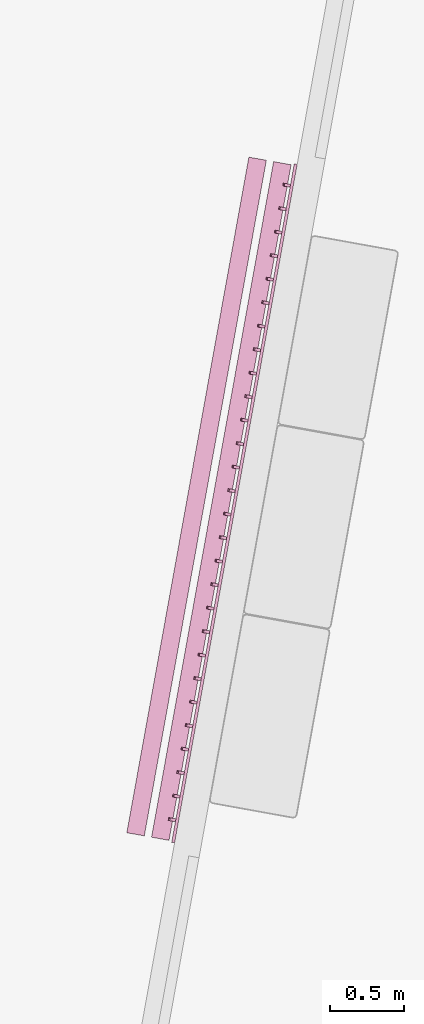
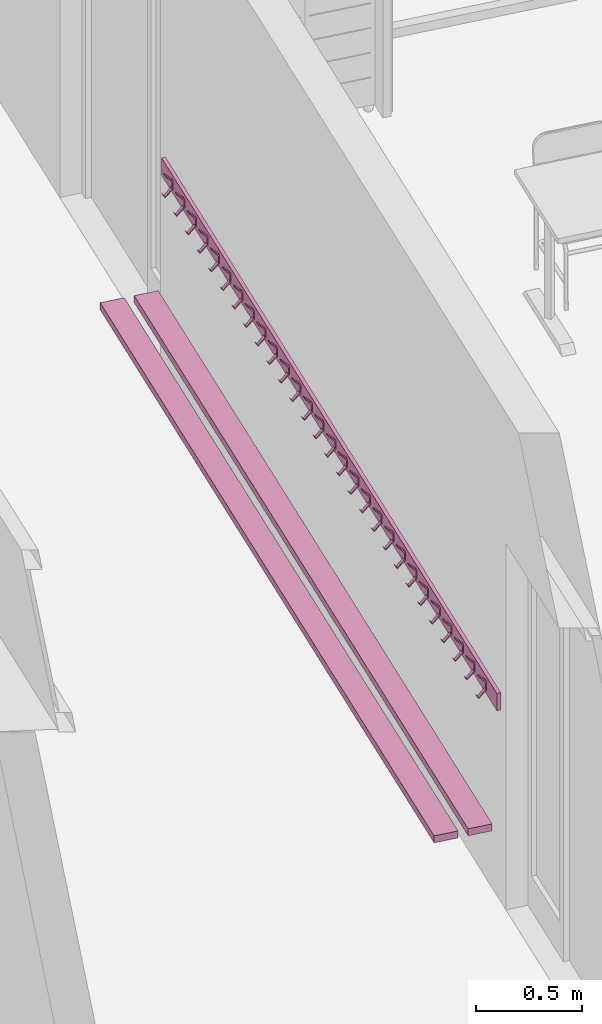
# One storey, part 4 of 79: 2 furnishings.
"""IFC2X3 building model written with IfcOpenShell, lengths in metres."""

from ifc_helpers import new_model, entity, si_unit, converted_unit, derived_unit, money_unit, direction, frame, origin_with_axes, place, context, subcontext, project, spatial, faceted_brep, source, transform, mapped, material, type_object, element, save


model = new_model("IFC2X3")

# Units and contexts
model_context = context("Model", 3, precision=1e-05, world=origin_with_axes(), true_north=direction((0.0, 1.0)))
body_context = subcontext(model_context, "Body", "Model", "MODEL_VIEW")
ifc_project = project(units=[si_unit("LENGTHUNIT", "METRE"), si_unit("AREAUNIT", "SQUARE_METRE"), si_unit("VOLUMEUNIT", "CUBIC_METRE"), converted_unit("PLANEANGLEUNIT", "DEGREE", entity("IfcPlaneAngleMeasure", 0.0174532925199), si_unit("PLANEANGLEUNIT", "RADIAN"), dimensions=[0, 0, 0, 0, 0, 0, 0]), money_unit("CHF"), converted_unit("TIMEUNIT", "Year", entity("IfcTimeMeasure", 31556926.0), si_unit("TIMEUNIT", "SECOND"), dimensions=[0, 0, 1, 0, 0, 0, 0]), si_unit("MASSUNIT", "GRAM", prefix="KILO"), si_unit("THERMODYNAMICTEMPERATUREUNIT", "DEGREE_CELSIUS"), si_unit("LUMINOUSINTENSITYUNIT", "LUMEN"), si_unit("ENERGYUNIT", "JOULE", prefix="MEGA"), derived_unit("THERMALCONDUCTANCEUNIT", [(si_unit("POWERUNIT", "WATT"), 1), (si_unit("LENGTHUNIT", "METRE"), -1), (si_unit("THERMODYNAMICTEMPERATUREUNIT", "KELVIN"), -1)]), derived_unit("SPECIFICHEATCAPACITYUNIT", [(si_unit("ENERGYUNIT", "JOULE"), 1), (si_unit("MASSUNIT", "GRAM", prefix="KILO"), -1), (si_unit("THERMODYNAMICTEMPERATUREUNIT", "KELVIN"), -1)]), derived_unit("MASSDENSITYUNIT", [(si_unit("MASSUNIT", "GRAM", prefix="KILO"), 1), (si_unit("VOLUMEUNIT", "CUBIC_METRE"), -1)])], contexts=[model_context])

# Site, building, storey
site_placement = place(None, frame((0.0, 0.0, 0.0), z_axis=(0.0, 0.0, 1.0), x_axis=(-0.177771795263, -0.984071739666, 0.0)))
site = spatial("IfcSite", under=ifc_project, at=site_placement, Name="Site", CompositionType="ELEMENT")
building_placement = place(site_placement, origin_with_axes())
building = spatial("IfcBuilding", under=site, at=building_placement, Name="Bâtiment", CompositionType="ELEMENT")
storey_placement = place(building_placement, origin_with_axes())
storey = spatial("IfcBuildingStorey", under=building, at=storey_placement, Name="RDC", CompositionType="ELEMENT", Elevation=0.0)

# Furnishings
ifc_material_1 = material(Name="Matériau de construction IFC")
furnishing_element_type_1 = type_object("IfcFurnishingElementType", Name="Râtelier mural 21")
shared_shape_1 = source(origin_with_axes(), body_context, "Body", "Brep", [
    faceted_brep([(-2.33000000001, 0.0, 0.0), (2.33000000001, 0.0, 0.0), (2.33000000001, -0.02, 0.0), (-2.33000000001, -0.02, 0.0), (-2.33000000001, 0.0, 0.1), (2.33000000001, 0.0, 0.1), (2.33000000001, -0.02, 0.1), (-2.33000000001, -0.02, 0.1)], [[[0, 1, 2, 3]], [[1, 0, 4, 5]], [[2, 1, 5, 6]], [[3, 2, 6, 7]], [[0, 3, 7, 4]], [[5, 4, 7, 6]]]),
    faceted_brep([(2.16862068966, -0.06, -0.015), (2.16862068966, -0.02, 0.025), (2.18862068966, -0.02, 0.025), (2.18862068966, -0.06, -0.015), (2.16862068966, -0.07, 0.0), (2.16862068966, -0.0675, 0.0), (2.16862068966, -0.06, -0.01), (2.16862068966, -0.025, 0.03), (2.16862068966, -0.025, 0.07), (2.16862068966, -0.06, 0.11), (2.16862068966, -0.06, 0.115), (2.16862068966, -0.02, 0.075), (2.18862068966, -0.02, 0.075), (2.18862068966, -0.06, 0.115), (2.18862068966, -0.06, 0.11), (2.18862068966, -0.025, 0.07), (2.18862068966, -0.025, 0.03), (2.18862068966, -0.06, -0.01), (2.18862068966, -0.0675, 0.0), (2.18862068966, -0.07, 0.0)], [[[0, 1, 2, 3]], [[0, 4, 5, 6, 7, 8, 9, 10, 11, 1]], [[1, 11, 12, 2]], [[3, 2, 12, 13, 14, 15, 16, 17, 18, 19]], [[4, 0, 3, 19]], [[5, 4, 19, 18]], [[6, 5, 18, 17]], [[7, 6, 17, 16]], [[8, 7, 16, 15]], [[9, 8, 15, 14]], [[10, 9, 14, 13]], [[11, 10, 13, 12]]]),
    faceted_brep([(2.00724137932, -0.06, -0.015), (2.00724137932, -0.02, 0.025), (2.02724137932, -0.02, 0.025), (2.02724137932, -0.06, -0.015), (2.00724137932, -0.07, 0.0), (2.00724137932, -0.0675, 0.0), (2.00724137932, -0.06, -0.01), (2.00724137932, -0.025, 0.03), (2.00724137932, -0.025, 0.07), (2.00724137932, -0.06, 0.11), (2.00724137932, -0.06, 0.115), (2.00724137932, -0.02, 0.075), (2.02724137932, -0.02, 0.075), (2.02724137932, -0.06, 0.115), (2.02724137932, -0.06, 0.11), (2.02724137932, -0.025, 0.07), (2.02724137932, -0.025, 0.03), (2.02724137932, -0.06, -0.01), (2.02724137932, -0.0675, 0.0), (2.02724137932, -0.07, 0.0)], [[[0, 1, 2, 3]], [[0, 4, 5, 6, 7, 8, 9, 10, 11, 1]], [[1, 11, 12, 2]], [[3, 2, 12, 13, 14, 15, 16, 17, 18, 19]], [[4, 0, 3, 19]], [[5, 4, 19, 18]], [[6, 5, 18, 17]], [[7, 6, 17, 16]], [[8, 7, 16, 15]], [[9, 8, 15, 14]], [[10, 9, 14, 13]], [[11, 10, 13, 12]]]),
    faceted_brep([(1.84586206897, -0.06, -0.015), (1.84586206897, -0.02, 0.025), (1.86586206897, -0.02, 0.025), (1.86586206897, -0.06, -0.015), (1.84586206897, -0.07, 0.0), (1.84586206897, -0.0675, 0.0), (1.84586206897, -0.06, -0.01), (1.84586206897, -0.025, 0.03), (1.84586206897, -0.025, 0.07), (1.84586206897, -0.06, 0.11), (1.84586206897, -0.06, 0.115), (1.84586206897, -0.02, 0.075), (1.86586206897, -0.02, 0.075), (1.86586206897, -0.06, 0.115), (1.86586206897, -0.06, 0.11), (1.86586206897, -0.025, 0.07), (1.86586206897, -0.025, 0.03), (1.86586206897, -0.06, -0.01), (1.86586206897, -0.0675, 0.0), (1.86586206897, -0.07, 0.0)], [[[0, 1, 2, 3]], [[0, 4, 5, 6, 7, 8, 9, 10, 11, 1]], [[1, 11, 12, 2]], [[3, 2, 12, 13, 14, 15, 16, 17, 18, 19]], [[4, 0, 3, 19]], [[5, 4, 19, 18]], [[6, 5, 18, 17]], [[7, 6, 17, 16]], [[8, 7, 16, 15]], [[9, 8, 15, 14]], [[10, 9, 14, 13]], [[11, 10, 13, 12]]]),
    faceted_brep([(1.68448275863, -0.06, -0.015), (1.68448275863, -0.02, 0.025), (1.70448275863, -0.02, 0.025), (1.70448275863, -0.06, -0.015), (1.68448275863, -0.07, 0.0), (1.68448275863, -0.0675, 0.0), (1.68448275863, -0.06, -0.01), (1.68448275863, -0.025, 0.03), (1.68448275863, -0.025, 0.07), (1.68448275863, -0.06, 0.11), (1.68448275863, -0.06, 0.115), (1.68448275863, -0.02, 0.075), (1.70448275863, -0.02, 0.075), (1.70448275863, -0.06, 0.115), (1.70448275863, -0.06, 0.11), (1.70448275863, -0.025, 0.07), (1.70448275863, -0.025, 0.03), (1.70448275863, -0.06, -0.01), (1.70448275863, -0.0675, 0.0), (1.70448275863, -0.07, 0.0)], [[[0, 1, 2, 3]], [[0, 4, 5, 6, 7, 8, 9, 10, 11, 1]], [[1, 11, 12, 2]], [[3, 2, 12, 13, 14, 15, 16, 17, 18, 19]], [[4, 0, 3, 19]], [[5, 4, 19, 18]], [[6, 5, 18, 17]], [[7, 6, 17, 16]], [[8, 7, 16, 15]], [[9, 8, 15, 14]], [[10, 9, 14, 13]], [[11, 10, 13, 12]]]),
    faceted_brep([(1.52310344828, -0.06, -0.015), (1.52310344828, -0.02, 0.025), (1.54310344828, -0.02, 0.025), (1.54310344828, -0.06, -0.015), (1.52310344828, -0.07, 0.0), (1.52310344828, -0.0675, 0.0), (1.52310344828, -0.06, -0.01), (1.52310344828, -0.025, 0.03), (1.52310344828, -0.025, 0.07), (1.52310344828, -0.06, 0.11), (1.52310344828, -0.06, 0.115), (1.52310344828, -0.02, 0.075), (1.54310344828, -0.02, 0.075), (1.54310344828, -0.06, 0.115), (1.54310344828, -0.06, 0.11), (1.54310344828, -0.025, 0.07), (1.54310344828, -0.025, 0.03), (1.54310344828, -0.06, -0.01), (1.54310344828, -0.0675, 0.0), (1.54310344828, -0.07, 0.0)], [[[0, 1, 2, 3]], [[0, 4, 5, 6, 7, 8, 9, 10, 11, 1]], [[1, 11, 12, 2]], [[3, 2, 12, 13, 14, 15, 16, 17, 18, 19]], [[4, 0, 3, 19]], [[5, 4, 19, 18]], [[6, 5, 18, 17]], [[7, 6, 17, 16]], [[8, 7, 16, 15]], [[9, 8, 15, 14]], [[10, 9, 14, 13]], [[11, 10, 13, 12]]]),
    faceted_brep([(1.36172413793, -0.06, -0.015), (1.36172413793, -0.02, 0.025), (1.38172413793, -0.02, 0.025), (1.38172413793, -0.06, -0.015), (1.36172413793, -0.07, 0.0), (1.36172413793, -0.0675, 0.0), (1.36172413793, -0.06, -0.01), (1.36172413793, -0.025, 0.03), (1.36172413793, -0.025, 0.07), (1.36172413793, -0.06, 0.11), (1.36172413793, -0.06, 0.115), (1.36172413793, -0.02, 0.075), (1.38172413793, -0.02, 0.075), (1.38172413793, -0.06, 0.115), (1.38172413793, -0.06, 0.11), (1.38172413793, -0.025, 0.07), (1.38172413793, -0.025, 0.03), (1.38172413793, -0.06, -0.01), (1.38172413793, -0.0675, 0.0), (1.38172413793, -0.07, 0.0)], [[[0, 1, 2, 3]], [[0, 4, 5, 6, 7, 8, 9, 10, 11, 1]], [[1, 11, 12, 2]], [[3, 2, 12, 13, 14, 15, 16, 17, 18, 19]], [[4, 0, 3, 19]], [[5, 4, 19, 18]], [[6, 5, 18, 17]], [[7, 6, 17, 16]], [[8, 7, 16, 15]], [[9, 8, 15, 14]], [[10, 9, 14, 13]], [[11, 10, 13, 12]]]),
    faceted_brep([(1.20034482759, -0.06, -0.015), (1.20034482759, -0.02, 0.025), (1.22034482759, -0.02, 0.025), (1.22034482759, -0.06, -0.015), (1.20034482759, -0.07, 0.0), (1.20034482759, -0.0675, 0.0), (1.20034482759, -0.06, -0.01), (1.20034482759, -0.025, 0.03), (1.20034482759, -0.025, 0.07), (1.20034482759, -0.06, 0.11), (1.20034482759, -0.06, 0.115), (1.20034482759, -0.02, 0.075), (1.22034482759, -0.02, 0.075), (1.22034482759, -0.06, 0.115), (1.22034482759, -0.06, 0.11), (1.22034482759, -0.025, 0.07), (1.22034482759, -0.025, 0.03), (1.22034482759, -0.06, -0.01), (1.22034482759, -0.0675, 0.0), (1.22034482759, -0.07, 0.0)], [[[0, 1, 2, 3]], [[0, 4, 5, 6, 7, 8, 9, 10, 11, 1]], [[1, 11, 12, 2]], [[3, 2, 12, 13, 14, 15, 16, 17, 18, 19]], [[4, 0, 3, 19]], [[5, 4, 19, 18]], [[6, 5, 18, 17]], [[7, 6, 17, 16]], [[8, 7, 16, 15]], [[9, 8, 15, 14]], [[10, 9, 14, 13]], [[11, 10, 13, 12]]]),
    faceted_brep([(1.03896551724, -0.06, -0.015), (1.03896551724, -0.02, 0.025), (1.05896551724, -0.02, 0.025), (1.05896551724, -0.06, -0.015), (1.03896551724, -0.07, 0.0), (1.03896551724, -0.0675, 0.0), (1.03896551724, -0.06, -0.01), (1.03896551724, -0.025, 0.03), (1.03896551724, -0.025, 0.07), (1.03896551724, -0.06, 0.11), (1.03896551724, -0.06, 0.115), (1.03896551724, -0.02, 0.075), (1.05896551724, -0.02, 0.075), (1.05896551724, -0.06, 0.115), (1.05896551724, -0.06, 0.11), (1.05896551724, -0.025, 0.07), (1.05896551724, -0.025, 0.03), (1.05896551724, -0.06, -0.01), (1.05896551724, -0.0675, 0.0), (1.05896551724, -0.07, 0.0)], [[[0, 1, 2, 3]], [[0, 4, 5, 6, 7, 8, 9, 10, 11, 1]], [[1, 11, 12, 2]], [[3, 2, 12, 13, 14, 15, 16, 17, 18, 19]], [[4, 0, 3, 19]], [[5, 4, 19, 18]], [[6, 5, 18, 17]], [[7, 6, 17, 16]], [[8, 7, 16, 15]], [[9, 8, 15, 14]], [[10, 9, 14, 13]], [[11, 10, 13, 12]]]),
    faceted_brep([(0.877586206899, -0.06, -0.015), (0.877586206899, -0.02, 0.025), (0.897586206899, -0.02, 0.025), (0.897586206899, -0.06, -0.015), (0.877586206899, -0.07, 0.0), (0.877586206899, -0.0675, 0.0), (0.877586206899, -0.06, -0.01), (0.877586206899, -0.025, 0.03), (0.877586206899, -0.025, 0.07), (0.877586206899, -0.06, 0.11), (0.877586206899, -0.06, 0.115), (0.877586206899, -0.02, 0.075), (0.897586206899, -0.02, 0.075), (0.897586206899, -0.06, 0.115), (0.897586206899, -0.06, 0.11), (0.897586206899, -0.025, 0.07), (0.897586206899, -0.025, 0.03), (0.897586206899, -0.06, -0.01), (0.897586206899, -0.0675, 0.0), (0.897586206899, -0.07, 0.0)], [[[0, 1, 2, 3]], [[0, 4, 5, 6, 7, 8, 9, 10, 11, 1]], [[1, 11, 12, 2]], [[3, 2, 12, 13, 14, 15, 16, 17, 18, 19]], [[4, 0, 3, 19]], [[5, 4, 19, 18]], [[6, 5, 18, 17]], [[7, 6, 17, 16]], [[8, 7, 16, 15]], [[9, 8, 15, 14]], [[10, 9, 14, 13]], [[11, 10, 13, 12]]]),
    faceted_brep([(0.716206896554, -0.06, -0.015), (0.716206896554, -0.02, 0.025), (0.736206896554, -0.02, 0.025), (0.736206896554, -0.06, -0.015), (0.716206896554, -0.07, 0.0), (0.716206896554, -0.0675, 0.0), (0.716206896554, -0.06, -0.01), (0.716206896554, -0.025, 0.03), (0.716206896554, -0.025, 0.07), (0.716206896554, -0.06, 0.11), (0.716206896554, -0.06, 0.115), (0.716206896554, -0.02, 0.075), (0.736206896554, -0.02, 0.075), (0.736206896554, -0.06, 0.115), (0.736206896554, -0.06, 0.11), (0.736206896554, -0.025, 0.07), (0.736206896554, -0.025, 0.03), (0.736206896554, -0.06, -0.01), (0.736206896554, -0.0675, 0.0), (0.736206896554, -0.07, 0.0)], [[[0, 1, 2, 3]], [[0, 4, 5, 6, 7, 8, 9, 10, 11, 1]], [[1, 11, 12, 2]], [[3, 2, 12, 13, 14, 15, 16, 17, 18, 19]], [[4, 0, 3, 19]], [[5, 4, 19, 18]], [[6, 5, 18, 17]], [[7, 6, 17, 16]], [[8, 7, 16, 15]], [[9, 8, 15, 14]], [[10, 9, 14, 13]], [[11, 10, 13, 12]]]),
    faceted_brep([(0.554827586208, -0.06, -0.015), (0.554827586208, -0.02, 0.025), (0.574827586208, -0.02, 0.025), (0.574827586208, -0.06, -0.015), (0.554827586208, -0.07, 0.0), (0.554827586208, -0.0675, 0.0), (0.554827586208, -0.06, -0.01), (0.554827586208, -0.025, 0.03), (0.554827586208, -0.025, 0.07), (0.554827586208, -0.06, 0.11), (0.554827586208, -0.06, 0.115), (0.554827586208, -0.02, 0.075), (0.574827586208, -0.02, 0.075), (0.574827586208, -0.06, 0.115), (0.574827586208, -0.06, 0.11), (0.574827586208, -0.025, 0.07), (0.574827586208, -0.025, 0.03), (0.574827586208, -0.06, -0.01), (0.574827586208, -0.0675, 0.0), (0.574827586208, -0.07, 0.0)], [[[0, 1, 2, 3]], [[0, 4, 5, 6, 7, 8, 9, 10, 11, 1]], [[1, 11, 12, 2]], [[3, 2, 12, 13, 14, 15, 16, 17, 18, 19]], [[4, 0, 3, 19]], [[5, 4, 19, 18]], [[6, 5, 18, 17]], [[7, 6, 17, 16]], [[8, 7, 16, 15]], [[9, 8, 15, 14]], [[10, 9, 14, 13]], [[11, 10, 13, 12]]]),
    faceted_brep([(0.393448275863, -0.06, -0.015), (0.393448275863, -0.02, 0.025), (0.413448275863, -0.02, 0.025), (0.413448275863, -0.06, -0.015), (0.393448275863, -0.07, 0.0), (0.393448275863, -0.0675, 0.0), (0.393448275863, -0.06, -0.01), (0.393448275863, -0.025, 0.03), (0.393448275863, -0.025, 0.07), (0.393448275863, -0.06, 0.11), (0.393448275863, -0.06, 0.115), (0.393448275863, -0.02, 0.075), (0.413448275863, -0.02, 0.075), (0.413448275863, -0.06, 0.115), (0.413448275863, -0.06, 0.11), (0.413448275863, -0.025, 0.07), (0.413448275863, -0.025, 0.03), (0.413448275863, -0.06, -0.01), (0.413448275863, -0.0675, 0.0), (0.413448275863, -0.07, 0.0)], [[[0, 1, 2, 3]], [[0, 4, 5, 6, 7, 8, 9, 10, 11, 1]], [[1, 11, 12, 2]], [[3, 2, 12, 13, 14, 15, 16, 17, 18, 19]], [[4, 0, 3, 19]], [[5, 4, 19, 18]], [[6, 5, 18, 17]], [[7, 6, 17, 16]], [[8, 7, 16, 15]], [[9, 8, 15, 14]], [[10, 9, 14, 13]], [[11, 10, 13, 12]]]),
    faceted_brep([(0.232068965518, -0.06, -0.015), (0.232068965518, -0.02, 0.025), (0.252068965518, -0.02, 0.025), (0.252068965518, -0.06, -0.015), (0.232068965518, -0.07, 0.0), (0.232068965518, -0.0675, 0.0), (0.232068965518, -0.06, -0.01), (0.232068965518, -0.025, 0.03), (0.232068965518, -0.025, 0.07), (0.232068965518, -0.06, 0.11), (0.232068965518, -0.06, 0.115), (0.232068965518, -0.02, 0.075), (0.252068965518, -0.02, 0.075), (0.252068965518, -0.06, 0.115), (0.252068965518, -0.06, 0.11), (0.252068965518, -0.025, 0.07), (0.252068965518, -0.025, 0.03), (0.252068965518, -0.06, -0.01), (0.252068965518, -0.0675, 0.0), (0.252068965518, -0.07, 0.0)], [[[0, 1, 2, 3]], [[0, 4, 5, 6, 7, 8, 9, 10, 11, 1]], [[1, 11, 12, 2]], [[3, 2, 12, 13, 14, 15, 16, 17, 18, 19]], [[4, 0, 3, 19]], [[5, 4, 19, 18]], [[6, 5, 18, 17]], [[7, 6, 17, 16]], [[8, 7, 16, 15]], [[9, 8, 15, 14]], [[10, 9, 14, 13]], [[11, 10, 13, 12]]]),
    faceted_brep([(0.0706896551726, -0.06, -0.015), (0.0706896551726, -0.02, 0.025), (0.0906896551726, -0.02, 0.025), (0.0906896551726, -0.06, -0.015), (0.0706896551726, -0.07, 0.0), (0.0706896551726, -0.0675, 0.0), (0.0706896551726, -0.06, -0.01), (0.0706896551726, -0.025, 0.03), (0.0706896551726, -0.025, 0.07), (0.0706896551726, -0.06, 0.11), (0.0706896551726, -0.06, 0.115), (0.0706896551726, -0.02, 0.075), (0.0906896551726, -0.02, 0.075), (0.0906896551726, -0.06, 0.115), (0.0906896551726, -0.06, 0.11), (0.0906896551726, -0.025, 0.07), (0.0906896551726, -0.025, 0.03), (0.0906896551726, -0.06, -0.01), (0.0906896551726, -0.0675, 0.0), (0.0906896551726, -0.07, 0.0)], [[[0, 1, 2, 3]], [[0, 4, 5, 6, 7, 8, 9, 10, 11, 1]], [[1, 11, 12, 2]], [[3, 2, 12, 13, 14, 15, 16, 17, 18, 19]], [[4, 0, 3, 19]], [[5, 4, 19, 18]], [[6, 5, 18, 17]], [[7, 6, 17, 16]], [[8, 7, 16, 15]], [[9, 8, 15, 14]], [[10, 9, 14, 13]], [[11, 10, 13, 12]]]),
    faceted_brep([(-0.0906896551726, -0.06, -0.015), (-0.0906896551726, -0.02, 0.025), (-0.0706896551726, -0.02, 0.025), (-0.0706896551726, -0.06, -0.015), (-0.0906896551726, -0.07, 0.0), (-0.0906896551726, -0.0675, 0.0), (-0.0906896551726, -0.06, -0.01), (-0.0906896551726, -0.025, 0.03), (-0.0906896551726, -0.025, 0.07), (-0.0906896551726, -0.06, 0.11), (-0.0906896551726, -0.06, 0.115), (-0.0906896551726, -0.02, 0.075), (-0.0706896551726, -0.02, 0.075), (-0.0706896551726, -0.06, 0.115), (-0.0706896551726, -0.06, 0.11), (-0.0706896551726, -0.025, 0.07), (-0.0706896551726, -0.025, 0.03), (-0.0706896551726, -0.06, -0.01), (-0.0706896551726, -0.0675, 0.0), (-0.0706896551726, -0.07, 0.0)], [[[0, 1, 2, 3]], [[0, 4, 5, 6, 7, 8, 9, 10, 11, 1]], [[1, 11, 12, 2]], [[3, 2, 12, 13, 14, 15, 16, 17, 18, 19]], [[4, 0, 3, 19]], [[5, 4, 19, 18]], [[6, 5, 18, 17]], [[7, 6, 17, 16]], [[8, 7, 16, 15]], [[9, 8, 15, 14]], [[10, 9, 14, 13]], [[11, 10, 13, 12]]]),
    faceted_brep([(-0.252068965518, -0.06, -0.015), (-0.252068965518, -0.02, 0.025), (-0.232068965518, -0.02, 0.025), (-0.232068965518, -0.06, -0.015), (-0.252068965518, -0.07, 0.0), (-0.252068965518, -0.0675, 0.0), (-0.252068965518, -0.06, -0.01), (-0.252068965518, -0.025, 0.03), (-0.252068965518, -0.025, 0.07), (-0.252068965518, -0.06, 0.11), (-0.252068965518, -0.06, 0.115), (-0.252068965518, -0.02, 0.075), (-0.232068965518, -0.02, 0.075), (-0.232068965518, -0.06, 0.115), (-0.232068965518, -0.06, 0.11), (-0.232068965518, -0.025, 0.07), (-0.232068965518, -0.025, 0.03), (-0.232068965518, -0.06, -0.01), (-0.232068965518, -0.0675, 0.0), (-0.232068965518, -0.07, 0.0)], [[[0, 1, 2, 3]], [[0, 4, 5, 6, 7, 8, 9, 10, 11, 1]], [[1, 11, 12, 2]], [[3, 2, 12, 13, 14, 15, 16, 17, 18, 19]], [[4, 0, 3, 19]], [[5, 4, 19, 18]], [[6, 5, 18, 17]], [[7, 6, 17, 16]], [[8, 7, 16, 15]], [[9, 8, 15, 14]], [[10, 9, 14, 13]], [[11, 10, 13, 12]]]),
    faceted_brep([(-0.413448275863, -0.06, -0.015), (-0.413448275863, -0.02, 0.025), (-0.393448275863, -0.02, 0.025), (-0.393448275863, -0.06, -0.015), (-0.413448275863, -0.07, 0.0), (-0.413448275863, -0.0675, 0.0), (-0.413448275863, -0.06, -0.01), (-0.413448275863, -0.025, 0.03), (-0.413448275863, -0.025, 0.07), (-0.413448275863, -0.06, 0.11), (-0.413448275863, -0.06, 0.115), (-0.413448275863, -0.02, 0.075), (-0.393448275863, -0.02, 0.075), (-0.393448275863, -0.06, 0.115), (-0.393448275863, -0.06, 0.11), (-0.393448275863, -0.025, 0.07), (-0.393448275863, -0.025, 0.03), (-0.393448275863, -0.06, -0.01), (-0.393448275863, -0.0675, 0.0), (-0.393448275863, -0.07, 0.0)], [[[0, 1, 2, 3]], [[0, 4, 5, 6, 7, 8, 9, 10, 11, 1]], [[1, 11, 12, 2]], [[3, 2, 12, 13, 14, 15, 16, 17, 18, 19]], [[4, 0, 3, 19]], [[5, 4, 19, 18]], [[6, 5, 18, 17]], [[7, 6, 17, 16]], [[8, 7, 16, 15]], [[9, 8, 15, 14]], [[10, 9, 14, 13]], [[11, 10, 13, 12]]]),
    faceted_brep([(-0.574827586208, -0.06, -0.015), (-0.574827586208, -0.02, 0.025), (-0.554827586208, -0.02, 0.025), (-0.554827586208, -0.06, -0.015), (-0.574827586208, -0.07, 0.0), (-0.574827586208, -0.0675, 0.0), (-0.574827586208, -0.06, -0.01), (-0.574827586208, -0.025, 0.03), (-0.574827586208, -0.025, 0.07), (-0.574827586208, -0.06, 0.11), (-0.574827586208, -0.06, 0.115), (-0.574827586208, -0.02, 0.075), (-0.554827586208, -0.02, 0.075), (-0.554827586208, -0.06, 0.115), (-0.554827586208, -0.06, 0.11), (-0.554827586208, -0.025, 0.07), (-0.554827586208, -0.025, 0.03), (-0.554827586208, -0.06, -0.01), (-0.554827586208, -0.0675, 0.0), (-0.554827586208, -0.07, 0.0)], [[[0, 1, 2, 3]], [[0, 4, 5, 6, 7, 8, 9, 10, 11, 1]], [[1, 11, 12, 2]], [[3, 2, 12, 13, 14, 15, 16, 17, 18, 19]], [[4, 0, 3, 19]], [[5, 4, 19, 18]], [[6, 5, 18, 17]], [[7, 6, 17, 16]], [[8, 7, 16, 15]], [[9, 8, 15, 14]], [[10, 9, 14, 13]], [[11, 10, 13, 12]]]),
    faceted_brep([(-0.736206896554, -0.06, -0.015), (-0.736206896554, -0.02, 0.025), (-0.716206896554, -0.02, 0.025), (-0.716206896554, -0.06, -0.015), (-0.736206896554, -0.07, 0.0), (-0.736206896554, -0.0675, 0.0), (-0.736206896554, -0.06, -0.01), (-0.736206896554, -0.025, 0.03), (-0.736206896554, -0.025, 0.07), (-0.736206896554, -0.06, 0.11), (-0.736206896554, -0.06, 0.115), (-0.736206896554, -0.02, 0.075), (-0.716206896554, -0.02, 0.075), (-0.716206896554, -0.06, 0.115), (-0.716206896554, -0.06, 0.11), (-0.716206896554, -0.025, 0.07), (-0.716206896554, -0.025, 0.03), (-0.716206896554, -0.06, -0.01), (-0.716206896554, -0.0675, 0.0), (-0.716206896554, -0.07, 0.0)], [[[0, 1, 2, 3]], [[0, 4, 5, 6, 7, 8, 9, 10, 11, 1]], [[1, 11, 12, 2]], [[3, 2, 12, 13, 14, 15, 16, 17, 18, 19]], [[4, 0, 3, 19]], [[5, 4, 19, 18]], [[6, 5, 18, 17]], [[7, 6, 17, 16]], [[8, 7, 16, 15]], [[9, 8, 15, 14]], [[10, 9, 14, 13]], [[11, 10, 13, 12]]]),
    faceted_brep([(-0.897586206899, -0.06, -0.015), (-0.897586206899, -0.02, 0.025), (-0.877586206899, -0.02, 0.025), (-0.877586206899, -0.06, -0.015), (-0.897586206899, -0.07, 0.0), (-0.897586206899, -0.0675, 0.0), (-0.897586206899, -0.06, -0.01), (-0.897586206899, -0.025, 0.03), (-0.897586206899, -0.025, 0.07), (-0.897586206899, -0.06, 0.11), (-0.897586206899, -0.06, 0.115), (-0.897586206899, -0.02, 0.075), (-0.877586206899, -0.02, 0.075), (-0.877586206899, -0.06, 0.115), (-0.877586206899, -0.06, 0.11), (-0.877586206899, -0.025, 0.07), (-0.877586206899, -0.025, 0.03), (-0.877586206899, -0.06, -0.01), (-0.877586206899, -0.0675, 0.0), (-0.877586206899, -0.07, 0.0)], [[[0, 1, 2, 3]], [[0, 4, 5, 6, 7, 8, 9, 10, 11, 1]], [[1, 11, 12, 2]], [[3, 2, 12, 13, 14, 15, 16, 17, 18, 19]], [[4, 0, 3, 19]], [[5, 4, 19, 18]], [[6, 5, 18, 17]], [[7, 6, 17, 16]], [[8, 7, 16, 15]], [[9, 8, 15, 14]], [[10, 9, 14, 13]], [[11, 10, 13, 12]]]),
    faceted_brep([(-1.05896551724, -0.06, -0.015), (-1.05896551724, -0.02, 0.025), (-1.03896551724, -0.02, 0.025), (-1.03896551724, -0.06, -0.015), (-1.05896551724, -0.07, 0.0), (-1.05896551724, -0.0675, 0.0), (-1.05896551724, -0.06, -0.01), (-1.05896551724, -0.025, 0.03), (-1.05896551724, -0.025, 0.07), (-1.05896551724, -0.06, 0.11), (-1.05896551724, -0.06, 0.115), (-1.05896551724, -0.02, 0.075), (-1.03896551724, -0.02, 0.075), (-1.03896551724, -0.06, 0.115), (-1.03896551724, -0.06, 0.11), (-1.03896551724, -0.025, 0.07), (-1.03896551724, -0.025, 0.03), (-1.03896551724, -0.06, -0.01), (-1.03896551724, -0.0675, 0.0), (-1.03896551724, -0.07, 0.0)], [[[0, 1, 2, 3]], [[0, 4, 5, 6, 7, 8, 9, 10, 11, 1]], [[1, 11, 12, 2]], [[3, 2, 12, 13, 14, 15, 16, 17, 18, 19]], [[4, 0, 3, 19]], [[5, 4, 19, 18]], [[6, 5, 18, 17]], [[7, 6, 17, 16]], [[8, 7, 16, 15]], [[9, 8, 15, 14]], [[10, 9, 14, 13]], [[11, 10, 13, 12]]]),
    faceted_brep([(-1.22034482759, -0.06, -0.015), (-1.22034482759, -0.02, 0.025), (-1.20034482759, -0.02, 0.025), (-1.20034482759, -0.06, -0.015), (-1.22034482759, -0.07, 0.0), (-1.22034482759, -0.0675, 0.0), (-1.22034482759, -0.06, -0.01), (-1.22034482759, -0.025, 0.03), (-1.22034482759, -0.025, 0.07), (-1.22034482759, -0.06, 0.11), (-1.22034482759, -0.06, 0.115), (-1.22034482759, -0.02, 0.075), (-1.20034482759, -0.02, 0.075), (-1.20034482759, -0.06, 0.115), (-1.20034482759, -0.06, 0.11), (-1.20034482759, -0.025, 0.07), (-1.20034482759, -0.025, 0.03), (-1.20034482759, -0.06, -0.01), (-1.20034482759, -0.0675, 0.0), (-1.20034482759, -0.07, 0.0)], [[[0, 1, 2, 3]], [[0, 4, 5, 6, 7, 8, 9, 10, 11, 1]], [[1, 11, 12, 2]], [[3, 2, 12, 13, 14, 15, 16, 17, 18, 19]], [[4, 0, 3, 19]], [[5, 4, 19, 18]], [[6, 5, 18, 17]], [[7, 6, 17, 16]], [[8, 7, 16, 15]], [[9, 8, 15, 14]], [[10, 9, 14, 13]], [[11, 10, 13, 12]]]),
    faceted_brep([(-1.38172413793, -0.06, -0.015), (-1.38172413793, -0.02, 0.025), (-1.36172413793, -0.02, 0.025), (-1.36172413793, -0.06, -0.015), (-1.38172413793, -0.07, 0.0), (-1.38172413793, -0.0675, 0.0), (-1.38172413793, -0.06, -0.01), (-1.38172413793, -0.025, 0.03), (-1.38172413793, -0.025, 0.07), (-1.38172413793, -0.06, 0.11), (-1.38172413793, -0.06, 0.115), (-1.38172413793, -0.02, 0.075), (-1.36172413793, -0.02, 0.075), (-1.36172413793, -0.06, 0.115), (-1.36172413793, -0.06, 0.11), (-1.36172413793, -0.025, 0.07), (-1.36172413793, -0.025, 0.03), (-1.36172413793, -0.06, -0.01), (-1.36172413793, -0.0675, 0.0), (-1.36172413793, -0.07, 0.0)], [[[0, 1, 2, 3]], [[0, 4, 5, 6, 7, 8, 9, 10, 11, 1]], [[1, 11, 12, 2]], [[3, 2, 12, 13, 14, 15, 16, 17, 18, 19]], [[4, 0, 3, 19]], [[5, 4, 19, 18]], [[6, 5, 18, 17]], [[7, 6, 17, 16]], [[8, 7, 16, 15]], [[9, 8, 15, 14]], [[10, 9, 14, 13]], [[11, 10, 13, 12]]]),
    faceted_brep([(-1.54310344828, -0.06, -0.015), (-1.54310344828, -0.02, 0.025), (-1.52310344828, -0.02, 0.025), (-1.52310344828, -0.06, -0.015), (-1.54310344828, -0.07, 0.0), (-1.54310344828, -0.0675, 0.0), (-1.54310344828, -0.06, -0.01), (-1.54310344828, -0.025, 0.03), (-1.54310344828, -0.025, 0.07), (-1.54310344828, -0.06, 0.11), (-1.54310344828, -0.06, 0.115), (-1.54310344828, -0.02, 0.075), (-1.52310344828, -0.02, 0.075), (-1.52310344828, -0.06, 0.115), (-1.52310344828, -0.06, 0.11), (-1.52310344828, -0.025, 0.07), (-1.52310344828, -0.025, 0.03), (-1.52310344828, -0.06, -0.01), (-1.52310344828, -0.0675, 0.0), (-1.52310344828, -0.07, 0.0)], [[[0, 1, 2, 3]], [[0, 4, 5, 6, 7, 8, 9, 10, 11, 1]], [[1, 11, 12, 2]], [[3, 2, 12, 13, 14, 15, 16, 17, 18, 19]], [[4, 0, 3, 19]], [[5, 4, 19, 18]], [[6, 5, 18, 17]], [[7, 6, 17, 16]], [[8, 7, 16, 15]], [[9, 8, 15, 14]], [[10, 9, 14, 13]], [[11, 10, 13, 12]]]),
    faceted_brep([(-1.70448275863, -0.06, -0.015), (-1.70448275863, -0.02, 0.025), (-1.68448275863, -0.02, 0.025), (-1.68448275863, -0.06, -0.015), (-1.70448275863, -0.07, 0.0), (-1.70448275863, -0.0675, 0.0), (-1.70448275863, -0.06, -0.01), (-1.70448275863, -0.025, 0.03), (-1.70448275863, -0.025, 0.07), (-1.70448275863, -0.06, 0.11), (-1.70448275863, -0.06, 0.115), (-1.70448275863, -0.02, 0.075), (-1.68448275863, -0.02, 0.075), (-1.68448275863, -0.06, 0.115), (-1.68448275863, -0.06, 0.11), (-1.68448275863, -0.025, 0.07), (-1.68448275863, -0.025, 0.03), (-1.68448275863, -0.06, -0.01), (-1.68448275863, -0.0675, 0.0), (-1.68448275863, -0.07, 0.0)], [[[0, 1, 2, 3]], [[0, 4, 5, 6, 7, 8, 9, 10, 11, 1]], [[1, 11, 12, 2]], [[3, 2, 12, 13, 14, 15, 16, 17, 18, 19]], [[4, 0, 3, 19]], [[5, 4, 19, 18]], [[6, 5, 18, 17]], [[7, 6, 17, 16]], [[8, 7, 16, 15]], [[9, 8, 15, 14]], [[10, 9, 14, 13]], [[11, 10, 13, 12]]]),
    faceted_brep([(-1.86586206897, -0.06, -0.015), (-1.86586206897, -0.02, 0.025), (-1.84586206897, -0.02, 0.025), (-1.84586206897, -0.06, -0.015), (-1.86586206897, -0.07, 0.0), (-1.86586206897, -0.0675, 0.0), (-1.86586206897, -0.06, -0.01), (-1.86586206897, -0.025, 0.03), (-1.86586206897, -0.025, 0.07), (-1.86586206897, -0.06, 0.11), (-1.86586206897, -0.06, 0.115), (-1.86586206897, -0.02, 0.075), (-1.84586206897, -0.02, 0.075), (-1.84586206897, -0.06, 0.115), (-1.84586206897, -0.06, 0.11), (-1.84586206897, -0.025, 0.07), (-1.84586206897, -0.025, 0.03), (-1.84586206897, -0.06, -0.01), (-1.84586206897, -0.0675, 0.0), (-1.84586206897, -0.07, 0.0)], [[[0, 1, 2, 3]], [[0, 4, 5, 6, 7, 8, 9, 10, 11, 1]], [[1, 11, 12, 2]], [[3, 2, 12, 13, 14, 15, 16, 17, 18, 19]], [[4, 0, 3, 19]], [[5, 4, 19, 18]], [[6, 5, 18, 17]], [[7, 6, 17, 16]], [[8, 7, 16, 15]], [[9, 8, 15, 14]], [[10, 9, 14, 13]], [[11, 10, 13, 12]]]),
    faceted_brep([(-2.02724137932, -0.06, -0.015), (-2.02724137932, -0.02, 0.025), (-2.00724137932, -0.02, 0.025), (-2.00724137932, -0.06, -0.015), (-2.02724137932, -0.07, 0.0), (-2.02724137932, -0.0675, 0.0), (-2.02724137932, -0.06, -0.01), (-2.02724137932, -0.025, 0.03), (-2.02724137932, -0.025, 0.07), (-2.02724137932, -0.06, 0.11), (-2.02724137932, -0.06, 0.115), (-2.02724137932, -0.02, 0.075), (-2.00724137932, -0.02, 0.075), (-2.00724137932, -0.06, 0.115), (-2.00724137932, -0.06, 0.11), (-2.00724137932, -0.025, 0.07), (-2.00724137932, -0.025, 0.03), (-2.00724137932, -0.06, -0.01), (-2.00724137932, -0.0675, 0.0), (-2.00724137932, -0.07, 0.0)], [[[0, 1, 2, 3]], [[0, 4, 5, 6, 7, 8, 9, 10, 11, 1]], [[1, 11, 12, 2]], [[3, 2, 12, 13, 14, 15, 16, 17, 18, 19]], [[4, 0, 3, 19]], [[5, 4, 19, 18]], [[6, 5, 18, 17]], [[7, 6, 17, 16]], [[8, 7, 16, 15]], [[9, 8, 15, 14]], [[10, 9, 14, 13]], [[11, 10, 13, 12]]]),
    faceted_brep([(-2.18862068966, -0.06, -0.015), (-2.18862068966, -0.02, 0.025), (-2.16862068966, -0.02, 0.025), (-2.16862068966, -0.06, -0.015), (-2.18862068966, -0.07, 0.0), (-2.18862068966, -0.0675, 0.0), (-2.18862068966, -0.06, -0.01), (-2.18862068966, -0.025, 0.03), (-2.18862068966, -0.025, 0.07), (-2.18862068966, -0.06, 0.11), (-2.18862068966, -0.06, 0.115), (-2.18862068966, -0.02, 0.075), (-2.16862068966, -0.02, 0.075), (-2.16862068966, -0.06, 0.115), (-2.16862068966, -0.06, 0.11), (-2.16862068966, -0.025, 0.07), (-2.16862068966, -0.025, 0.03), (-2.16862068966, -0.06, -0.01), (-2.16862068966, -0.0675, 0.0), (-2.16862068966, -0.07, 0.0)], [[[0, 1, 2, 3]], [[0, 4, 5, 6, 7, 8, 9, 10, 11, 1]], [[1, 11, 12, 2]], [[3, 2, 12, 13, 14, 15, 16, 17, 18, 19]], [[4, 0, 3, 19]], [[5, 4, 19, 18]], [[6, 5, 18, 17]], [[7, 6, 17, 16]], [[8, 7, 16, 15]], [[9, 8, 15, 14]], [[10, 9, 14, 13]], [[11, 10, 13, 12]]]),
])
furnishing_1_placement = place(storey_placement, frame((160.199840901, -156.627251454, 1.1), z_axis=(0.0, 0.0, 1.0), x_axis=(1.0, 0.0, 0.0)))
element("IfcFurnishingElement", 1, at=furnishing_1_placement, inside=storey, type_object=furnishing_element_type_1, material=ifc_material_1, Name="pateres-couloir", ObjectType="SYSTEM_FURNITURE", context=body_context, shape_type="MappedRepresentation", body=[
    mapped(shared_shape_1, transform((0.0, 0.0, 0.0))),
])
ifc_material_2 = material(Name="_Bois contreplaqué")
furnishing_element_type_2 = type_object("IfcFurnishingElementType", Name="Banc-couloir")
shared_shape_2 = source(origin_with_axes(), body_context, "Body", "Brep", [
    faceted_brep([(0.0, 0.0, 0.38), (2.3200000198, 0.0, 0.38), (2.3200000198, 0.0, 0.42), (0.0, 0.0, 0.42), (0.0, 0.12, 0.38), (2.3200000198, 0.12, 0.38), (2.3200000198, 0.12, 0.42), (0.0, 0.12, 0.42)], [[[0, 1, 2, 3]], [[0, 4, 5, 1]], [[1, 5, 6, 2]], [[3, 2, 6, 7]], [[4, 0, 3, 7]], [[5, 4, 7, 6]]]),
    faceted_brep([(0.0, 0.17, 0.38), (2.3200000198, 0.17, 0.38), (2.3200000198, 0.17, 0.42), (0.0, 0.17, 0.42), (0.0, 0.29, 0.38), (2.3200000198, 0.29, 0.38), (2.3200000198, 0.29, 0.42), (0.0, 0.29, 0.42)], [[[0, 1, 2, 3]], [[0, 4, 5, 1]], [[1, 5, 6, 2]], [[3, 2, 6, 7]], [[4, 0, 3, 7]], [[5, 4, 7, 6]]]),
    faceted_brep([(2.3199999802, 0.0, 0.38), (4.64, 0.0, 0.38), (4.64, 0.0, 0.42), (2.3199999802, 0.0, 0.42), (2.3199999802, 0.12, 0.38), (4.64, 0.12, 0.38), (4.64, 0.12, 0.42), (2.3199999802, 0.12, 0.42)], [[[0, 1, 2, 3]], [[0, 4, 5, 1]], [[1, 5, 6, 2]], [[3, 2, 6, 7]], [[4, 0, 3, 7]], [[5, 4, 7, 6]]]),
    faceted_brep([(2.3199999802, 0.17, 0.38), (4.64, 0.17, 0.38), (4.64, 0.17, 0.42), (2.3199999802, 0.17, 0.42), (2.3199999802, 0.29, 0.38), (4.64, 0.29, 0.38), (4.64, 0.29, 0.42), (2.3199999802, 0.29, 0.42)], [[[0, 1, 2, 3]], [[0, 4, 5, 1]], [[1, 5, 6, 2]], [[3, 2, 6, 7]], [[4, 0, 3, 7]], [[5, 4, 7, 6]]]),
])
furnishing_2_placement = place(storey_placement, frame((157.879840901, -156.957251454, 0.03), z_axis=(0.0, 0.0, 1.0), x_axis=(1.0, 0.0, 0.0)))
element("IfcFurnishingElement", 2, at=furnishing_2_placement, inside=storey, type_object=furnishing_element_type_2, material=ifc_material_2, Name="banc-couloir", ObjectType="SYSTEM_FURNITURE", context=body_context, shape_type="MappedRepresentation", body=[
    mapped(shared_shape_2, transform((0.0, 0.0, 0.0))),
])

save(model, "model.ifc")
